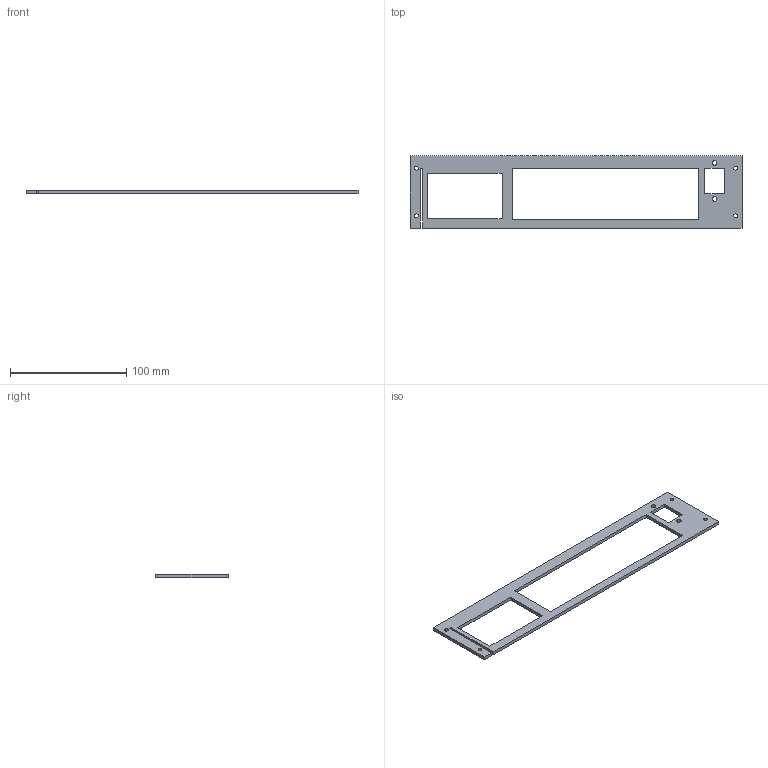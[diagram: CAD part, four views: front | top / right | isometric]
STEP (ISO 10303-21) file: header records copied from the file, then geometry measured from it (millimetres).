
FILE_DESCRIPTION(('FreeCAD Model'),'2;1');
FILE_NAME('Open CASCADE Shape Model','2025-01-25T13:21:17',(''),(''), 'Open CASCADE STEP processor 7.6','FreeCAD','Unknown');
FILE_SCHEMA(('AUTOMOTIVE_DESIGN { 1 0 10303 214 1 1 1 1 }'));
Length unit declared in the file: millimetre
Products named in the file (1): Rear
Bounding box: 285 x 62 x 3 mm (x, y, z)
Volume: 22793 mm3; surface area: 19862.1 mm2
Topology: 1 solids, 1 shells, 28 faces, 78 edges, 52 vertices
Faces by surface type: plane 22, cylinder 6
Full cylindrical faces by diameter (mm): 3.3 x4, 4 x2
Entity records: 952 total; most frequent: CARTESIAN_POINT 159, ORIENTED_EDGE 156, DIRECTION 148, EDGE_CURVE 78, LINE 66, VECTOR 66, VERTEX_POINT 52, FACE_BOUND 46
